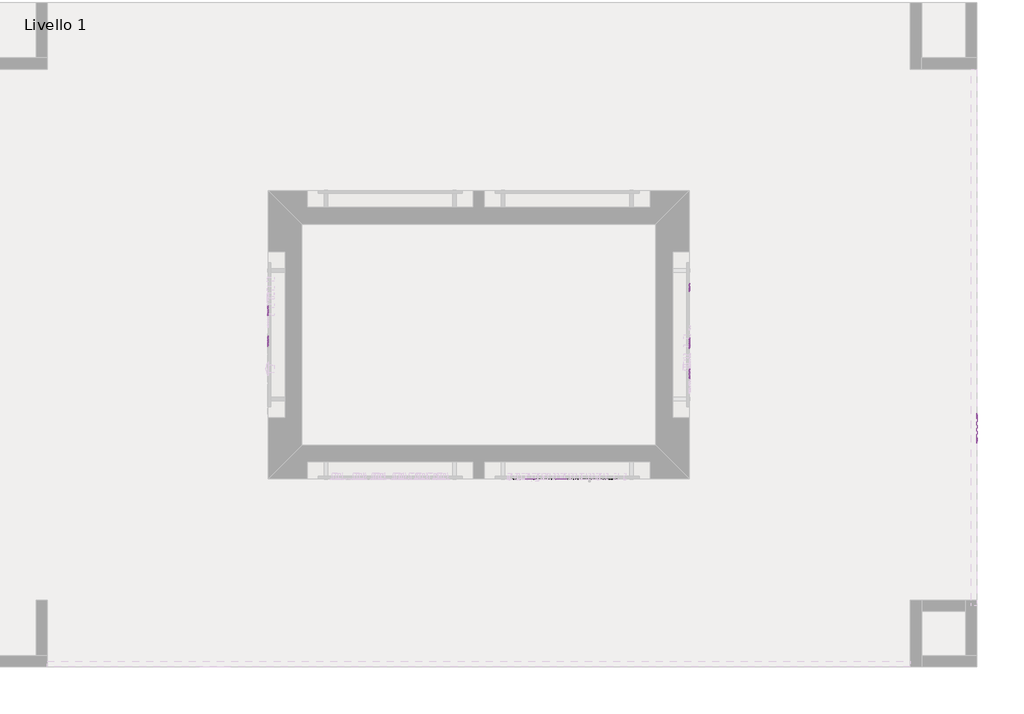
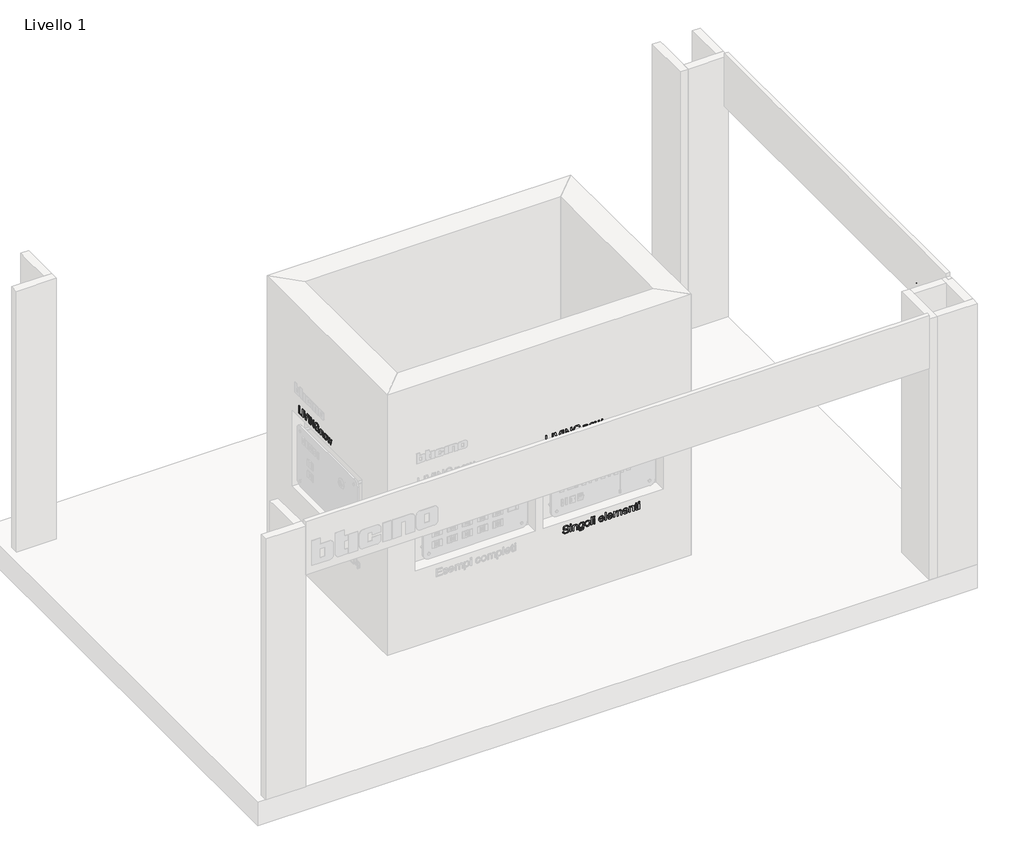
# One storey, part 4 of 4: 9 proxies.
"""IFC4 building model written with IfcOpenShell, lengths in millimetres."""

from ifc_helpers import new_model, si_unit, frame, origin, place, context, project, spatial, polyline, outline, extrude, transform, mapped, element, save
from components import entourage_2e1bad55

model = new_model("IFC4")

# Units and contexts
model_context = context("Model", 3, world=origin())
ifc_project = project(units=[si_unit("LENGTHUNIT", "METRE", prefix="MILLI")], contexts=[model_context])

# Site, building, storey
site = spatial("IfcSite", under=ifc_project)
building = spatial("IfcBuilding", under=site)
storey = spatial("IfcBuildingStorey", under=building, Name="Livello 1", Elevation=0.0)

# Proxies
placement = place(None, origin())
element("IfcBuildingElementProxy", 1, Name="100mm Helvetica", ObjectType="100mm Helvetica", at=placement, inside=storey, context=model_context, shape_type="SweptSolid", body=[
    extrude(outline(polyline([(871.4398046, 12367.3945448), (856.9970704, 12369.9120283), (845.8027019, 12377.4644789), (838.6438033, 12389.8769845), (836.2575038, 12407.0246081), (838.2502513, 12423.7474453), (844.2284938, 12436.5347624), (853.9423571, 12444.6494301), (867.1919416, 12447.3543194), (877.4367877, 12445.9050485), (885.2828406, 12441.5572357), (890.9549871, 12434.3858434), (894.5781644, 12424.3159093), (901.0748961, 12397.6043471), (906.2223066, 12386.3600038), (914.6180829, 12383.3864997), (922.2205084, 12384.9419672), (927.7364835, 12389.6083696), (932.2092334, 12406.1000732), (930.909887, 12416.4027027), (927.011848, 12424.0472945), (920.5151163, 12429.0338484), (911.419692, 12431.3623645), (911.419692, 12444.1559284), (926.0185977, 12440.8575877), (935.8823855, 12432.7616605), (941.5232977, 12420.9800875), (943.4036018, 12406.4748846), (941.2546829, 12391.1763308), (934.807926, 12379.8632721), (924.8192011, 12372.9105198), (912.0443777, 12370.5929357), (902.7802882, 12372.0234661), (895.7775611, 12376.3150571), (887.456747, 12392.0571377), (882.7091354, 12413.0215912), (875.3128562, 12430.9125907), (865.467809, 12434.5607554), (857.3968692, 12432.9240788), (851.7746976, 12428.0140489), (847.4518723, 12408.8486904), (848.951118, 12396.7219785), (853.4488554, 12387.9029776), (860.9450842, 12382.3916876), (871.4398046, 12380.1881087), (871.4398046, 12367.3945448)])), frame((0.0, 5064.1271843, 0.0), z_axis=(0.0, 1.0, 0.0), x_axis=(0.0, 0.0, 1.0)), (0.0, 0.0, 1.0), 5.0),
    extrude(outline(polyline([(12476.1398383, 5064.1271843), (12463.3462743, 5064.1271843), (12463.3462743, 5069.1271843), (12476.1398383, 5069.1271843), (12476.1398383, 5064.1271843)])), frame((0.0, 0.0, 839.4558948), z_axis=(0.0, 0.0, 1.0), x_axis=(1.0, 0.0, 0.0)), (0.0, 0.0, 1.0), 73.5629927),
    extrude(outline(polyline([(12476.1398383, 5064.1271843), (12463.3462743, 5064.1271843), (12463.3462743, 5069.1271843), (12476.1398383, 5069.1271843), (12476.1398383, 5064.1271843)])), frame((0.0, 0.0, 925.8124514), z_axis=(0.0, 0.0, 1.0), x_axis=(1.0, 0.0, 0.0)), (0.0, 0.0, 1.0), 14.3927594),
    extrude(outline(polyline([(839.4558948, 12493.7309887), (839.4558948, 12506.5245526), (879.1859078, 12506.5245526), (889.4307539, 12507.8301458), (897.0769074, 12511.7469254), (901.8370127, 12517.7439085), (903.4237145, 12525.2901122), (899.3757509, 12536.3345561), (884.433268, 12540.107658), (839.4558948, 12540.107658), (839.4558948, 12552.9012219), (889.0559425, 12552.9012219), (899.6006378, 12551.3395075), (907.696565, 12546.6543645), (912.8877035, 12539.1331482), (914.6180829, 12529.0132392), (911.419692, 12516.6194742), (901.824519, 12506.5245526), (913.0188875, 12506.5245526), (913.0188875, 12493.7309887), (839.4558948, 12493.7309887)])), frame((0.0, 5064.1271843, 0.0), z_axis=(0.0, 1.0, 0.0), x_axis=(0.0, 0.0, 1.0)), (0.0, 0.0, 1.0), 5.0),
    extrude(outline(polyline([(831.4599173, 12567.2939813), (821.0901341, 12570.461138), (814.1686161, 12576.5143428), (809.0711804, 12595.8046385), (811.0951622, 12610.3598162), (817.1671076, 12620.9919675), (828.4614258, 12627.494946), (846.0026013, 12629.6626055), (913.0188875, 12629.6626055), (913.0188875, 12616.8690416), (901.824519, 12616.8690416), (911.4696668, 12607.4237932), (914.6180829, 12595.1049904), (912.0256371, 12582.7799408), (904.2482997, 12573.4908639), (892.5167015, 12567.6438053), (878.0614735, 12565.6947858), (861.5447825, 12567.8374579), (848.776206, 12574.2654742), (840.586576, 12584.2541992), (837.8566993, 12597.0789974), (840.6552914, 12608.6481773), (849.0510678, 12616.8690416), (844.0535818, 12616.8690416), (833.0028911, 12615.5884358), (825.6878211, 12611.7466185), (821.6211169, 12605.3623303), (820.2655489, 12596.4543116), (823.064141, 12585.3536461), (831.4599173, 12580.0875453), (831.4599173, 12567.2939813)]), holes=[polyline([(877.4867626, 12578.4883498), (896.9394765, 12583.167246), (901.802655, 12589.0158662), (903.4237145, 12597.2039345), (901.6464836, 12605.8074189), (896.3147908, 12611.9527648), (887.4286361, 12615.6399724), (874.9880196, 12616.8690416), (855.872636, 12611.771606), (850.7564598, 12605.7059074), (849.0510678, 12597.5537585), (850.9376187, 12589.5702748), (856.5972715, 12583.5108231), (877.4867626, 12578.4883498)])]), frame((0.0, 5064.1271843, 0.0), z_axis=(0.0, 1.0, 0.0), x_axis=(0.0, 0.0, 1.0)), (0.0, 0.0, 1.0), 5.0),
    extrude(outline(polyline([(875.9625294, 12642.4561695), (860.5390385, 12644.8924439), (848.3514197, 12652.201267), (840.4803794, 12663.3019326), (837.8566993, 12677.1137343), (840.586576, 12691.0254857), (848.776206, 12701.876277), (861.1262431, 12708.885251), (876.2373911, 12711.2215757), (891.9794718, 12708.8040419), (904.1733374, 12701.5514404), (912.0068966, 12690.5257371), (914.6180829, 12676.8388726), (911.9256874, 12662.8084309), (903.8485008, 12651.851443), (891.5172043, 12644.8049879), (875.9625294, 12642.4561695)]), holes=[polyline([(876.2373911, 12655.2497334), (887.8627927, 12656.7427323), (896.4022468, 12661.2217291), (901.6683476, 12668.1370002), (903.4237145, 12676.8388726), (901.474695, 12686.1779244), (895.6276365, 12692.9557646), (876.2373911, 12698.4280117), (864.3995964, 12696.8538037), (855.872636, 12692.1311795), (850.7564598, 12685.184674), (849.0510678, 12676.8388726), (851.0000873, 12667.6185111), (856.8471458, 12660.7969428), (865.6052398, 12656.6365358), (876.2373911, 12655.2497334)])]), frame((0.0, 5064.1271843, 0.0), z_axis=(0.0, 1.0, 0.0), x_axis=(0.0, 0.0, 1.0)), (0.0, 0.0, 1.0), 5.0),
    extrude(outline(polyline([(12736.8087035, 5064.1271843), (12724.0151396, 5064.1271843), (12724.0151396, 5069.1271843), (12736.8087035, 5069.1271843), (12736.8087035, 5064.1271843)])), frame((0.0, 0.0, 839.4558948), z_axis=(0.0, 0.0, 1.0), x_axis=(1.0, 0.0, 0.0)), (0.0, 0.0, 1.0), 100.749316),
    extrude(outline(polyline([(12767.1934179, 5064.1271843), (12754.399854, 5064.1271843), (12754.399854, 5069.1271843), (12767.1934179, 5069.1271843), (12767.1934179, 5064.1271843)])), frame((0.0, 0.0, 839.4558948), z_axis=(0.0, 0.0, 1.0), x_axis=(1.0, 0.0, 0.0)), (0.0, 0.0, 1.0), 73.5629927),
    extrude(outline(polyline([(12767.1934179, 5064.1271843), (12754.399854, 5064.1271843), (12754.399854, 5069.1271843), (12767.1934179, 5069.1271843), (12767.1934179, 5064.1271843)])), frame((0.0, 0.0, 925.8124514), z_axis=(0.0, 0.0, 1.0), x_axis=(1.0, 0.0, 0.0)), (0.0, 0.0, 1.0), 14.3927594),
    extrude(outline(polyline([(873.0390001, 12831.1612376), (873.0390001, 12883.9346889), (891.3922672, 12881.6420922), (904.323262, 12875.5639), (912.0443777, 12865.8188024), (914.6180829, 12852.4255402), (911.8382314, 12838.0702619), (903.4986768, 12827.288186), (890.8550374, 12820.5978018), (875.0130071, 12818.3676737), (859.0960144, 12820.629036), (847.4268848, 12827.4131232), (840.2492457, 12838.0140402), (837.8566993, 12851.6259424), (839.5745851, 12863.12016), (844.7282424, 12872.1656095), (852.892885, 12878.6186132), (863.4438272, 12882.3354934), (863.4438272, 12869.5419294), (853.3239182, 12863.2700846), (849.0510678, 12850.9762693), (850.619029, 12842.2931375), (855.3229126, 12836.0837612), (873.0390001, 12831.1612376)]), holes=[polyline([(882.6341731, 12831.1612376), (897.6766057, 12837.3081453), (901.9869373, 12843.7299147), (903.4237145, 12851.7508796), (898.7510652, 12864.9942172), (882.6341731, 12871.1411249), (882.6341731, 12831.1612376)])]), frame((0.0, 5064.1271843, 0.0), z_axis=(0.0, 1.0, 0.0), x_axis=(0.0, 0.0, 1.0)), (0.0, 0.0, 1.0), 5.0),
    extrude(outline(polyline([(12912.7202077, 5064.1271843), (12899.9266438, 5064.1271843), (12899.9266438, 5069.1271843), (12912.7202077, 5069.1271843), (12912.7202077, 5064.1271843)])), frame((0.0, 0.0, 839.4558948), z_axis=(0.0, 0.0, 1.0), x_axis=(1.0, 0.0, 0.0)), (0.0, 0.0, 1.0), 100.749316),
    extrude(outline(polyline([(873.0390001, 12938.3073356), (873.0390001, 12991.0807869), (891.3922672, 12988.7881902), (904.323262, 12982.709998), (912.0443777, 12972.9649004), (914.6180829, 12959.5716382), (911.8382314, 12945.2163599), (903.4986768, 12934.434284), (890.8550374, 12927.7438998), (875.0130071, 12925.5137717), (859.0960144, 12927.775134), (847.4268848, 12934.5592212), (840.2492457, 12945.1601382), (837.8566993, 12958.7720404), (839.5745851, 12970.266258), (844.7282424, 12979.3117075), (852.892885, 12985.7647112), (863.4438272, 12989.4815914), (863.4438272, 12976.6880274), (853.3239182, 12970.4161826), (849.0510678, 12958.1223673), (850.619029, 12949.4392355), (855.3229126, 12943.2298592), (873.0390001, 12938.3073356)]), holes=[polyline([(882.6341731, 12938.3073356), (897.6766057, 12944.4542433), (901.9869373, 12950.8760127), (903.4237145, 12958.8969776), (898.7510652, 12972.1403152), (882.6341731, 12978.2872229), (882.6341731, 12938.3073356)])]), frame((0.0, 5064.1271843, 0.0), z_axis=(0.0, 1.0, 0.0), x_axis=(0.0, 0.0, 1.0)), (0.0, 0.0, 1.0), 5.0),
    extrude(outline(polyline([(913.0188875, 13007.0727418), (839.4558948, 13007.0727418), (839.4558948, 13019.8663057), (879.1859078, 13019.8663057), (889.5994191, 13021.2031332), (897.2018445, 13025.2136157), (901.868247, 13031.2793142), (903.4237145, 13038.8317648), (900.0441647, 13047.3962063), (889.9055151, 13050.2510201), (839.4558948, 13050.2510201), (839.4558948, 13063.044584), (883.908532, 13063.044584), (898.1513669, 13068.3169317), (903.4237145, 13080.4858099), (899.23832, 13090.1934263), (886.6821367, 13093.4292984), (839.4558948, 13093.4292984), (839.4558948, 13106.2228623), (889.95549, 13106.2228623), (900.468951, 13104.5986794), (908.221301, 13099.7261306), (913.0188875, 13092.2923703), (914.6180829, 13082.9845528), (911.8194908, 13071.2029798), (903.4237145, 13061.1455394), (911.8194908, 13053.2245242), (914.6180829, 13042.1051181), (911.419692, 13030.0861644), (901.824519, 13019.8663057), (913.0188875, 13019.8663057), (913.0188875, 13007.0727418)])), frame((0.0, 5064.1271843, 0.0), z_axis=(0.0, 1.0, 0.0), x_axis=(0.0, 0.0, 1.0)), (0.0, 0.0, 1.0), 5.0),
    extrude(outline(polyline([(873.0390001, 13130.2107947), (873.0390001, 13182.984246), (891.3922672, 13180.6916493), (904.323262, 13174.6134571), (912.0443777, 13164.8683595), (914.6180829, 13151.4750973), (911.8382314, 13137.119819), (903.4986768, 13126.3377431), (890.8550374, 13119.6473589), (875.0130071, 13117.4172308), (859.0960144, 13119.6785932), (847.4268848, 13126.4626803), (840.2492457, 13137.0635973), (837.8566993, 13150.6754995), (839.5745851, 13162.1697171), (844.7282424, 13171.2151666), (852.892885, 13177.6681703), (863.4438272, 13181.3850505), (863.4438272, 13168.5914865), (853.3239182, 13162.3196417), (849.0510678, 13150.0258264), (850.619029, 13141.3426946), (855.3229126, 13135.1333183), (873.0390001, 13130.2107947)]), holes=[polyline([(882.6341731, 13130.2107947), (897.6766057, 13136.3577024), (901.9869373, 13142.7794718), (903.4237145, 13150.8004367), (898.7510652, 13164.0437744), (882.6341731, 13170.190682), (882.6341731, 13130.2107947)])]), frame((0.0, 5064.1271843, 0.0), z_axis=(0.0, 1.0, 0.0), x_axis=(0.0, 0.0, 1.0)), (0.0, 0.0, 1.0), 5.0),
    extrude(outline(polyline([(839.4558948, 13198.9762009), (839.4558948, 13211.7697648), (879.1859078, 13211.7697648), (889.4307539, 13213.075358), (897.0769074, 13216.9921376), (901.8370127, 13222.9891207), (903.4237145, 13230.5353245), (899.3757509, 13241.5797683), (884.433268, 13245.3528702), (839.4558948, 13245.3528702), (839.4558948, 13258.1464341), (889.0559425, 13258.1464341), (899.6006378, 13256.5847198), (907.696565, 13251.8995767), (912.8877035, 13244.3783604), (914.6180829, 13234.2584515), (911.419692, 13221.8646864), (901.824519, 13211.7697648), (913.0188875, 13211.7697648), (913.0188875, 13198.9762009), (839.4558948, 13198.9762009)])), frame((0.0, 5064.1271843, 0.0), z_axis=(0.0, 1.0, 0.0), x_axis=(0.0, 0.0, 1.0)), (0.0, 0.0, 1.0), 5.0),
    extrude(outline(polyline([(903.4237145, 13267.7416071), (903.4237145, 13277.33678), (853.9985788, 13277.33678), (841.8921692, 13280.7600579), (837.8566993, 13291.0298914), (838.8062216, 13301.3247124), (849.0510678, 13301.3247124), (849.0510678, 13297.226774), (850.5440667, 13291.9044515), (855.0230634, 13290.130344), (903.4237145, 13290.130344), (903.4237145, 13301.3247124), (913.0188875, 13301.3247124), (913.0188875, 13290.130344), (933.8084289, 13290.130344), (933.8084289, 13277.33678), (913.0188875, 13277.33678), (913.0188875, 13267.7416071), (903.4237145, 13267.7416071)])), frame((0.0, 5064.1271843, 0.0), z_axis=(0.0, 1.0, 0.0), x_axis=(0.0, 0.0, 1.0)), (0.0, 0.0, 1.0), 5.0),
    extrude(outline(polyline([(13326.9118403, 5064.1271843), (13314.1182764, 5064.1271843), (13314.1182764, 5069.1271843), (13326.9118403, 5069.1271843), (13326.9118403, 5064.1271843)])), frame((0.0, 0.0, 839.4558948), z_axis=(0.0, 0.0, 1.0), x_axis=(1.0, 0.0, 0.0)), (0.0, 0.0, 1.0), 73.5629927),
    extrude(outline(polyline([(13326.9118403, 5064.1271843), (13314.1182764, 5064.1271843), (13314.1182764, 5069.1271843), (13326.9118403, 5069.1271843), (13326.9118403, 5064.1271843)])), frame((0.0, 0.0, 925.8124514), z_axis=(0.0, 0.0, 1.0), x_axis=(1.0, 0.0, 0.0)), (0.0, 0.0, 1.0), 14.3927594),
])
element("IfcBuildingElementProxy", 2, Name="100mm Helvetica", ObjectType="100mm Helvetica", at=placement, inside=storey, context=model_context, shape_type="SweptSolid", body=[
    extrude(outline(polyline([(2217.0134512, 12156.5528227), (2116.2641352, 12156.5528227), (2116.2641352, 12220.5206424), (2127.4585036, 12220.5206424), (2127.4585036, 12169.3463866), (2217.0134512, 12169.3463866), (2217.0134512, 12156.5528227)])), frame((0.0, 5064.1271843, 0.0), z_axis=(0.0, 1.0, 0.0), x_axis=(0.0, 0.0, 1.0)), (0.0, 0.0, 1.0), 5.0),
    extrude(outline(polyline([(12247.7069658, 5064.1271843), (12234.9134018, 5064.1271843), (12234.9134018, 5069.1271843), (12247.7069658, 5069.1271843), (12247.7069658, 5064.1271843)])), frame((0.0, 0.0, 2116.2641352), z_axis=(0.0, 0.0, 1.0), x_axis=(1.0, 0.0, 0.0)), (0.0, 0.0, 1.0), 100.749316),
    extrude(outline(polyline([(2130.8318066, 12307.6018345), (2217.0134512, 12278.6414036), (2217.0134512, 12263.6989207), (2116.2641352, 12300.480417), (2116.2641352, 12314.8731765), (2217.0134512, 12351.6546728), (2217.0134512, 12336.4373282), (2130.8318066, 12307.6018345)])), frame((0.0, 5064.1271843, 0.0), z_axis=(0.0, 1.0, 0.0), x_axis=(0.0, 0.0, 1.0)), (0.0, 0.0, 1.0), 5.0),
    extrude(outline(polyline([(12378.8409962, 5064.1271843), (12366.0474322, 5064.1271843), (12366.0474322, 5069.1271843), (12378.8409962, 5069.1271843), (12378.8409962, 5064.1271843)])), frame((0.0, 0.0, 2116.2641352), z_axis=(0.0, 0.0, 1.0), x_axis=(1.0, 0.0, 0.0)), (0.0, 0.0, 1.0), 100.749316),
    extrude(outline(polyline([(2217.0134512, 12402.8289286), (2116.2641352, 12402.8289286), (2116.2641352, 12415.8973542), (2198.1229545, 12415.8973542), (2116.2641352, 12465.1975528), (2116.2641352, 12481.1895077), (2217.0134512, 12481.1895077), (2217.0134512, 12468.3959438), (2135.1546319, 12467.2964969), (2217.0134512, 12418.8208835), (2217.0134512, 12402.8289286)])), frame((0.0, 5064.1271843, 0.0), z_axis=(0.0, 1.0, 0.0), x_axis=(0.0, 0.0, 1.0)), (0.0, 0.0, 1.0), 5.0),
    extrude(outline(polyline([(2159.4424135, 12543.5581319), (2159.4424135, 12575.5420418), (2143.8377637, 12573.3556417), (2132.8557884, 12566.7964414), (2126.4090316, 12556.8889256), (2124.2601127, 12544.5576291), (2127.0524579, 12529.9462296), (2135.4294937, 12519.6451618), (2148.6478439, 12513.591957), (2166.0141075, 12511.5742221), (2184.3986088, 12513.898053), (2197.923055, 12520.8695459), (2206.2438691, 12531.5454251), (2209.0174738, 12544.9324405), (2204.0699627, 12563.3481761), (2197.6232059, 12569.6949832), (2188.2279324, 12573.9428463), (2188.2279324, 12586.7364102), (2201.8023535, 12581.8701083), (2211.8910282, 12572.3186633), (2218.1316387, 12559.2939657), (2220.2118422, 12544.0578805), (2216.3013095, 12524.4677357), (2204.5697113, 12509.6252025), (2186.9535735, 12500.2923976), (2165.3894217, 12497.1814626), (2144.6685958, 12500.3111382), (2127.8832899, 12509.7001648), (2116.7701306, 12524.1116648), (2113.0657442, 12542.1588358), (2117.7883684, 12562.3486789), (2129.0576991, 12575.5420418), (2116.2641352, 12578.7404327), (2116.2641352, 12588.3356057), (2170.6367819, 12588.3356057), (2170.6367819, 12543.5581319), (2159.4424135, 12543.5581319)])), frame((0.0, 5064.1271843, 0.0), z_axis=(0.0, 1.0, 0.0), x_axis=(0.0, 0.0, 1.0)), (0.0, 0.0, 1.0), 5.0),
])
element("IfcBuildingElementProxy", 3, Name="100mm Helvetica", ObjectType="100mm Helvetica", at=placement, inside=storey, context=model_context, shape_type="SweptSolid", body=[
    extrude(outline(polyline([(2115.7141484, 12624.1349483), (2115.7141484, 12636.9285122), (2155.4441614, 12636.9285122), (2165.6890075, 12638.2341054), (2173.335161, 12642.150885), (2178.0952663, 12648.1478681), (2179.6819681, 12655.6940718), (2175.6340045, 12666.7385157), (2160.6915216, 12670.5116176), (2115.7141484, 12670.5116176), (2115.7141484, 12683.3051815), (2165.3141961, 12683.3051815), (2175.8588914, 12681.7434672), (2183.9548185, 12677.0583241), (2189.145957, 12669.5371078), (2190.8763365, 12659.4171988), (2187.6779455, 12647.0234338), (2178.0827726, 12636.9285122), (2189.277141, 12636.9285122), (2189.277141, 12624.1349483), (2115.7141484, 12624.1349483)])), frame((0.0, 5064.1271843, 0.0), z_axis=(0.0, 1.0, 0.0), x_axis=(0.0, 0.0, 1.0)), (0.0, 0.0, 1.0), 5.0),
    extrude(outline(polyline([(2152.220783, 12696.0987455), (2136.7972921, 12698.5350198), (2124.6096733, 12705.843843), (2116.738633, 12716.9445086), (2114.1149529, 12730.7563103), (2116.8448296, 12744.6680617), (2125.0344596, 12755.518853), (2137.3844967, 12762.527827), (2152.4956447, 12764.8641516), (2168.2377253, 12762.4466178), (2180.431591, 12755.1940164), (2188.2651501, 12744.1683131), (2190.8763365, 12730.4814485), (2188.183941, 12716.4510068), (2180.1067544, 12705.494019), (2167.7754579, 12698.4475638), (2152.220783, 12696.0987455)]), holes=[polyline([(2152.4956447, 12708.8923094), (2164.1210463, 12710.3853083), (2172.6605004, 12714.8643051), (2177.9266012, 12721.7795762), (2179.6819681, 12730.4814485), (2177.7329486, 12739.8205003), (2171.8858901, 12746.5983406), (2152.4956447, 12752.0705877), (2140.6578499, 12750.4963796), (2132.1308896, 12745.7737554), (2127.0147134, 12738.82725), (2125.3093213, 12730.4814485), (2127.2583408, 12721.261087), (2133.1053994, 12714.4395188), (2141.8634934, 12710.2791117), (2152.4956447, 12708.8923094)])]), frame((0.0, 5064.1271843, 0.0), z_axis=(0.0, 1.0, 0.0), x_axis=(0.0, 0.0, 1.0)), (0.0, 0.0, 1.0), 5.0),
    extrude(outline(polyline([(2189.277141, 12769.6617381), (2115.7141484, 12790.4512795), (2115.7141484, 12803.2448435), (2172.8853872, 12818.3622383), (2115.7141484, 12833.6295578), (2115.7141484, 12846.4231218), (2189.277141, 12867.2126632), (2189.277141, 12854.9938101), (2130.9564804, 12840.3511764), (2189.277141, 12825.6335804), (2189.277141, 12811.2408209), (2130.9564804, 12796.7730992), (2189.277141, 12783.0550004), (2189.277141, 12769.6617381)])), frame((0.0, 5064.1271843, 0.0), z_axis=(0.0, 1.0, 0.0), x_axis=(0.0, 0.0, 1.0)), (0.0, 0.0, 1.0), 5.0),
])
element("IfcBuildingElementProxy", 4, Name="100mm Helvetica", ObjectType="100mm Helvetica", at=placement, inside=storey, context=model_context, shape_type="SweptSolid", body=[
    extrude(outline(polyline([(6972.3283182, 2157.2849335), (6972.3283182, 2056.5356175), (6908.3604985, 2056.5356175), (6908.3604985, 2067.7299859), (6959.5347543, 2067.7299859), (6959.5347543, 2157.2849335), (6972.3283182, 2157.2849335)])), frame((10168.8446289, 0.0, 0.0), z_axis=(1.0, 0.0, 0.0), x_axis=(0.0, 1.0, 0.0)), (0.0, 0.0, 1.0), 5.0),
    extrude(outline(polyline([(10168.8446289, 6881.1741751), (10168.8446289, 6893.9677391), (10173.8446289, 6893.9677391), (10173.8446289, 6881.1741751), (10168.8446289, 6881.1741751)])), frame((0.0, 0.0, 2056.5356175), z_axis=(0.0, 0.0, 1.0), x_axis=(1.0, 0.0, 0.0)), (0.0, 0.0, 1.0), 100.749316),
    extrude(outline(polyline([(6821.2793064, 2071.1032889), (6850.2397373, 2157.2849335), (6865.1822202, 2157.2849335), (6828.4007239, 2056.5356175), (6814.0079644, 2056.5356175), (6777.2264681, 2157.2849335), (6792.4438127, 2157.2849335), (6821.2793064, 2071.1032889)])), frame((10168.8446289, 0.0, 0.0), z_axis=(1.0, 0.0, 0.0), x_axis=(0.0, 1.0, 0.0)), (0.0, 0.0, 1.0), 5.0),
    extrude(outline(polyline([(10168.8446289, 6750.0401447), (10168.8446289, 6762.8337087), (10173.8446289, 6762.8337087), (10173.8446289, 6750.0401447), (10168.8446289, 6750.0401447)])), frame((0.0, 0.0, 2056.5356175), z_axis=(0.0, 0.0, 1.0), x_axis=(1.0, 0.0, 0.0)), (0.0, 0.0, 1.0), 100.749316),
    extrude(outline(polyline([(6726.0522123, 2157.2849335), (6726.0522123, 2056.5356175), (6712.9837867, 2056.5356175), (6712.9837867, 2138.3944367), (6663.6835881, 2056.5356175), (6647.6916332, 2056.5356175), (6647.6916332, 2157.2849335), (6660.4851971, 2157.2849335), (6661.5846441, 2075.4261142), (6710.0602574, 2157.2849335), (6726.0522123, 2157.2849335)])), frame((10168.8446289, 0.0, 0.0), z_axis=(1.0, 0.0, 0.0), x_axis=(0.0, 1.0, 0.0)), (0.0, 0.0, 1.0), 5.0),
    extrude(outline(polyline([(6585.323009, 2099.7138958), (6553.3390991, 2099.7138958), (6555.5254992, 2084.109246), (6562.0846995, 2073.1272707), (6571.9922153, 2066.6805139), (6584.3235118, 2064.5315949), (6598.9349113, 2067.3239402), (6609.2359791, 2075.700976), (6615.2891839, 2088.9193262), (6617.3069188, 2106.2855897), (6614.9830879, 2124.6700911), (6608.011595, 2138.1945373), (6597.3357158, 2146.5153514), (6583.9487004, 2149.288956), (6565.5329648, 2144.341445), (6559.1861577, 2137.8946882), (6554.9382946, 2128.4994146), (6542.1447307, 2128.4994146), (6547.0110326, 2142.0738358), (6556.5624776, 2152.1625104), (6569.5871752, 2158.403121), (6584.8232604, 2160.4833245), (6604.4134052, 2156.5727918), (6619.2559384, 2144.8411936), (6628.5887433, 2127.2250557), (6631.6996783, 2105.660904), (6628.5700027, 2084.940078), (6619.1809761, 2068.1547722), (6604.7694761, 2057.0416129), (6586.7223051, 2053.3372265), (6566.532462, 2058.0598507), (6553.3390991, 2069.3291814), (6550.1407082, 2056.5356175), (6540.5455352, 2056.5356175), (6540.5455352, 2110.9082642), (6585.323009, 2110.9082642), (6585.323009, 2099.7138958)])), frame((10168.8446289, 0.0, 0.0), z_axis=(1.0, 0.0, 0.0), x_axis=(0.0, 1.0, 0.0)), (0.0, 0.0, 1.0), 5.0),
])
element("IfcBuildingElementProxy", 5, Name="100mm Helvetica", ObjectType="100mm Helvetica", at=placement, inside=storey, context=model_context, shape_type="SweptSolid", body=[
    extrude(outline(polyline([(6504.7461926, 2055.9856307), (6491.9526287, 2055.9856307), (6491.9526287, 2095.7156437), (6490.6470355, 2105.9604898), (6486.7302559, 2113.6066432), (6480.7332728, 2118.3667486), (6473.1870691, 2119.9534504), (6462.1426252, 2115.9054868), (6458.3695233, 2100.9630039), (6458.3695233, 2055.9856307), (6445.5759594, 2055.9856307), (6445.5759594, 2105.5856784), (6447.1376737, 2116.1303736), (6451.8228168, 2124.2263008), (6459.3440331, 2129.4174393), (6469.4639421, 2131.1478188), (6481.8577071, 2127.9494278), (6491.9526287, 2118.3542549), (6491.9526287, 2129.5486233), (6504.7461926, 2129.5486233), (6504.7461926, 2055.9856307)])), frame((10168.8446289, 0.0, 0.0), z_axis=(1.0, 0.0, 0.0), x_axis=(0.0, 1.0, 0.0)), (0.0, 0.0, 1.0), 5.0),
    extrude(outline(polyline([(6432.7823954, 2092.4922653), (6430.3461211, 2077.0687744), (6423.0372979, 2064.8811556), (6411.9366323, 2057.0101153), (6398.1248306, 2054.3864352), (6384.2130792, 2057.1163118), (6373.3622879, 2065.3059419), (6366.3533139, 2077.655979), (6364.0169893, 2092.767127), (6366.4345231, 2108.5092076), (6373.6871245, 2120.7030732), (6384.7128278, 2128.5366324), (6398.3996924, 2131.1478188), (6412.4301341, 2128.4554233), (6423.3871219, 2120.3782367), (6430.4335771, 2108.0469402), (6432.7823954, 2092.4922653)]), holes=[polyline([(6419.9888315, 2092.767127), (6418.4958326, 2104.3925286), (6414.0168358, 2112.9319826), (6407.1015647, 2118.1980834), (6398.3996924, 2119.9534504), (6389.0606406, 2118.0044309), (6382.2828003, 2112.1573723), (6376.8105532, 2092.767127), (6378.3847613, 2080.9293322), (6383.1073855, 2072.4023719), (6390.0538909, 2067.2861957), (6398.3996924, 2065.5808036), (6407.6200539, 2067.5298231), (6414.4416221, 2073.3768816), (6418.6020292, 2082.1349757), (6419.9888315, 2092.767127)])]), frame((10168.8446289, 0.0, 0.0), z_axis=(1.0, 0.0, 0.0), x_axis=(0.0, 1.0, 0.0)), (0.0, 0.0, 1.0), 5.0),
    extrude(outline(polyline([(6359.2194028, 2129.5486233), (6338.4298614, 2055.9856307), (6325.6362974, 2055.9856307), (6310.5189026, 2113.1568695), (6295.2515831, 2055.9856307), (6282.4580191, 2055.9856307), (6261.6684777, 2129.5486233), (6273.8873308, 2129.5486233), (6288.5299645, 2071.2279627), (6303.2475605, 2129.5486233), (6317.64032, 2129.5486233), (6332.1080417, 2071.2279627), (6345.8261405, 2129.5486233), (6359.2194028, 2129.5486233)])), frame((10168.8446289, 0.0, 0.0), z_axis=(1.0, 0.0, 0.0), x_axis=(0.0, 1.0, 0.0)), (0.0, 0.0, 1.0), 5.0),
])
element("IfcBuildingElementProxy", 6, Name="100mm Helvetica", ObjectType="100mm Helvetica", at=placement, inside=storey, context=model_context, shape_type="SweptSolid", body=[
    extrude(outline(polyline([(5629.6316589, 2211.2973557), (5642.4252228, 2211.2973557), (5642.4252228, 2121.7424081), (5693.5994786, 2121.7424081), (5693.5994786, 2110.5480396), (5629.6316589, 2110.5480396), (5629.6316589, 2211.2973557)])), frame((13973.8446289, 0.0, 0.0), z_axis=(1.0, 0.0, 0.0), x_axis=(0.0, 1.0, 0.0)), (0.0, 0.0, 1.0), 5.0),
    extrude(outline(polyline([(13978.8446289, 5720.785802), (13978.8446289, 5707.992238), (13973.8446289, 5707.992238), (13973.8446289, 5720.785802), (13978.8446289, 5720.785802)])), frame((0.0, 0.0, 2110.5480396), z_axis=(0.0, 0.0, 1.0), x_axis=(1.0, 0.0, 0.0)), (0.0, 0.0, 1.0), 100.749316),
    extrude(outline(polyline([(5780.6806707, 2125.1157111), (5809.5161644, 2211.2973557), (5824.733509, 2211.2973557), (5787.9520127, 2110.5480396), (5773.5592532, 2110.5480396), (5736.7777569, 2211.2973557), (5751.7202398, 2211.2973557), (5780.6806707, 2125.1157111)])), frame((13973.8446289, 0.0, 0.0), z_axis=(1.0, 0.0, 0.0), x_axis=(0.0, 1.0, 0.0)), (0.0, 0.0, 1.0), 5.0),
    extrude(outline(polyline([(13978.8446289, 5851.9198324), (13978.8446289, 5839.1262684), (13973.8446289, 5839.1262684), (13973.8446289, 5851.9198324), (13978.8446289, 5851.9198324)])), frame((0.0, 0.0, 2110.5480396), z_axis=(0.0, 0.0, 1.0), x_axis=(1.0, 0.0, 0.0)), (0.0, 0.0, 1.0), 100.749316),
    extrude(outline(polyline([(5875.9077648, 2211.2973557), (5891.8997197, 2211.2973557), (5940.375333, 2129.4385364), (5941.4747799, 2211.2973557), (5954.2683439, 2211.2973557), (5954.2683439, 2110.5480396), (5938.276389, 2110.5480396), (5888.9761904, 2192.4068589), (5888.9761904, 2110.5480396), (5875.9077648, 2110.5480396), (5875.9077648, 2211.2973557)])), frame((13973.8446289, 0.0, 0.0), z_axis=(1.0, 0.0, 0.0), x_axis=(0.0, 1.0, 0.0)), (0.0, 0.0, 1.0), 5.0),
    extrude(outline(polyline([(6016.6369681, 2153.7263179), (6016.6369681, 2164.9206864), (6061.4144419, 2164.9206864), (6061.4144419, 2110.5480396), (6051.8192689, 2110.5480396), (6048.620878, 2123.3416036), (6035.4275151, 2112.0722728), (6015.237672, 2107.3496487), (5997.190501, 2111.0540351), (5982.779001, 2122.1671944), (5973.3899744, 2138.9525002), (5970.2602988, 2159.6733262), (5973.3712338, 2181.2374779), (5982.7040387, 2198.8536158), (5997.5465719, 2210.5852139), (6017.1367167, 2214.4957467), (6032.3728019, 2212.4155432), (6045.3974995, 2206.1749326), (6054.9489445, 2196.0862579), (6059.8152464, 2182.5118368), (6047.0216825, 2182.5118368), (6042.7738194, 2191.9071103), (6036.4270123, 2198.3538672), (6018.0112767, 2203.3013782), (6004.6242613, 2200.5277735), (5993.948382, 2192.2069595), (5986.9768892, 2178.6825132), (5984.6530582, 2160.2980119), (5986.6707932, 2142.9317484), (5992.723998, 2129.7133981), (6003.0250658, 2121.3363624), (6017.6364653, 2118.5440171), (6029.9677618, 2120.6929361), (6039.8752776, 2127.1396929), (6046.4344779, 2138.1216682), (6048.620878, 2153.7263179), (6016.6369681, 2153.7263179)])), frame((13973.8446289, 0.0, 0.0), z_axis=(1.0, 0.0, 0.0), x_axis=(0.0, 1.0, 0.0)), (0.0, 0.0, 1.0), 5.0),
])
element("IfcBuildingElementProxy", 7, Name="100mm Helvetica", ObjectType="100mm Helvetica", at=placement, inside=storey, context=model_context, shape_type="SweptSolid", body=[
    extrude(outline(polyline([(6097.2137845, 2109.9980528), (6097.2137845, 2183.5610455), (6110.0073484, 2183.5610455), (6110.0073484, 2172.366677), (6120.10227, 2181.96185), (6132.496035, 2185.160241), (6142.615944, 2183.4298615), (6150.1371603, 2178.238723), (6154.8223034, 2170.1427958), (6156.3840177, 2159.5981005), (6156.3840177, 2109.9980528), (6143.5904538, 2109.9980528), (6143.5904538, 2154.9754261), (6139.8173519, 2169.9179089), (6128.772908, 2173.9658725), (6121.2267043, 2172.3791708), (6115.2297212, 2167.6190654), (6111.3129416, 2159.972912), (6110.0073484, 2149.7280658), (6110.0073484, 2109.9980528), (6097.2137845, 2109.9980528)])), frame((13973.8446289, 0.0, 0.0), z_axis=(1.0, 0.0, 0.0), x_axis=(0.0, 1.0, 0.0)), (0.0, 0.0, 1.0), 5.0),
    extrude(outline(polyline([(6169.1775816, 2146.5046874), (6171.5264, 2162.0593623), (6178.5728552, 2174.3906588), (6189.529843, 2182.4678454), (6203.5602847, 2185.160241), (6217.2471493, 2182.5490546), (6228.2728526, 2174.7154954), (6235.525454, 2162.5216298), (6237.9429878, 2146.7795492), (6235.6066632, 2131.6684011), (6228.5976892, 2119.3183641), (6217.7468979, 2111.128734), (6203.8351465, 2108.3988573), (6190.0233448, 2111.0225374), (6178.9226792, 2118.8935778), (6171.613856, 2131.0811965), (6169.1775816, 2146.5046874)]), holes=[polyline([(6181.9711456, 2146.7795492), (6183.3579479, 2136.1473979), (6187.518355, 2127.3893038), (6194.3399232, 2121.5422453), (6203.5602847, 2119.5932258), (6211.9060862, 2121.2986179), (6218.8525916, 2126.4147941), (6223.5752158, 2134.9417544), (6225.1494239, 2146.7795492), (6219.6771768, 2166.1697945), (6212.8993365, 2172.016853), (6203.5602847, 2173.9658725), (6194.8584124, 2172.2105056), (6187.9431413, 2166.9444048), (6183.4641445, 2158.4049508), (6181.9711456, 2146.7795492)])]), frame((13973.8446289, 0.0, 0.0), z_axis=(1.0, 0.0, 0.0), x_axis=(0.0, 1.0, 0.0)), (0.0, 0.0, 1.0), 5.0),
    extrude(outline(polyline([(6242.7405743, 2183.5610455), (6256.1338366, 2183.5610455), (6269.8519354, 2125.2403849), (6284.3196571, 2183.5610455), (6298.7124165, 2183.5610455), (6313.4300126, 2125.2403849), (6328.0726463, 2183.5610455), (6340.2914994, 2183.5610455), (6319.501958, 2109.9980528), (6306.708394, 2109.9980528), (6291.4410745, 2167.1692917), (6276.3236797, 2109.9980528), (6263.5301157, 2109.9980528), (6242.7405743, 2183.5610455)])), frame((13973.8446289, 0.0, 0.0), z_axis=(1.0, 0.0, 0.0), x_axis=(0.0, 1.0, 0.0)), (0.0, 0.0, 1.0), 5.0),
])
element("IfcBuildingElementProxy", 8, Name="70mm Helvetica Bold", ObjectType="70mm Helvetica Bold", at=placement, inside=storey, context=model_context, shape_type="SweptSolid", body=[
    extrude(outline(polyline([(6516.0823555, 2179.3664344), (6531.1121715, 2179.3664344), (6558.6066185, 2131.1517963), (6558.8595241, 2179.3664344), (6572.7332004, 2179.3664344), (6572.7332004, 2109.9980528), (6557.7033844, 2109.9980528), (6529.3057032, 2159.3327013), (6529.9560318, 2109.9980528), (6516.0823555, 2109.9980528), (6516.0823555, 2179.3664344)])), frame((13973.8446289, 0.0, 0.0), z_axis=(1.0, 0.0, 0.0), x_axis=(0.0, 1.0, 0.0)), (0.0, 0.0, 1.0), 5.0),
    extrude(outline(polyline([(6595.8559942, 2131.964707), (6599.4328014, 2122.227843), (6607.652232, 2119.2471704), (6613.3832526, 2120.692345), (6616.6665087, 2125.0278688), (6630.540185, 2125.0278688), (6621.6342964, 2112.6174318), (6607.200615, 2108.8419131), (6596.5334198, 2110.5896712), (6588.5578624, 2115.8329453), (6583.626204, 2124.4136696), (6581.9823179, 2136.2099074), (6583.6081394, 2147.260977), (6588.4856037, 2155.8100881), (6596.3301921, 2161.337881), (6606.857386, 2163.1804787), (6617.7244217, 2161.3344939), (6625.48659, 2155.7965396), (6630.143891, 2146.5666158), (6631.6963247, 2133.6447225), (6631.6963247, 2131.964707), (6595.8559942, 2131.964707)]), holes=[polyline([(6596.2895466, 2141.2138245), (6617.8226484, 2141.2138245), (6614.3226161, 2149.0177674), (6606.8935153, 2151.6190817), (6599.6676423, 2149.0177674), (6596.2895466, 2141.2138245)])]), frame((13973.8446289, 0.0, 0.0), z_axis=(1.0, 0.0, 0.0), x_axis=(0.0, 1.0, 0.0)), (0.0, 0.0, 1.0), 5.0),
    extrude(outline(polyline([(6635.1647438, 2152.7752214), (6635.1647438, 2162.024339), (6642.1015819, 2162.024339), (6642.1015819, 2175.8980153), (6655.9752582, 2175.8980153), (6655.9752582, 2162.024339), (6664.0682361, 2162.024339), (6664.0682361, 2152.7752214), (6655.9752582, 2152.7752214), (6655.9752582, 2123.5646295), (6657.0230098, 2119.9336283), (6661.4849864, 2119.2471704), (6664.0682361, 2119.3916878), (6664.0682361, 2108.9864306), (6657.2759154, 2108.8419131), (6645.172578, 2111.4251628), (6642.1015819, 2120.3310513), (6642.1015819, 2152.7752214), (6635.1647438, 2152.7752214)])), frame((13973.8446289, 0.0, 0.0), z_axis=(1.0, 0.0, 0.0), x_axis=(0.0, 1.0, 0.0)), (0.0, 0.0, 1.0), 5.0),
    extrude(outline(polyline([(6669.8489345, 2144.6822436), (6672.5767016, 2153.8997479), (6677.3277132, 2159.4410894), (6693.0981811, 2163.1804787), (6709.0673606, 2159.4772187), (6713.470627, 2154.8481438), (6714.9383825, 2148.3674389), (6714.9383825, 2120.6562156), (6718.4068016, 2112.3103322), (6718.4068016, 2109.9980528), (6702.3472987, 2109.9980528), (6701.0647062, 2116.4652092), (6693.7530259, 2110.8651576), (6684.7522977, 2108.8419131), (6673.2992889, 2112.6716259), (6668.6927948, 2124.0885053), (6672.4863782, 2135.3608673), (6683.8671283, 2140.5996253), (6696.2414359, 2142.4602876), (6701.0647062, 2146.8319408), (6698.8021047, 2151.2894013), (6692.0143002, 2152.7752214), (6685.0413327, 2150.751977), (6682.5664711, 2144.6822436), (6669.8489345, 2144.6822436)]), holes=[polyline([(6701.0647062, 2135.4331261), (6696.9820879, 2133.6447225), (6691.797524, 2132.5066475), (6685.0593973, 2130.1582387), (6682.5664711, 2124.5943164), (6684.3910041, 2119.6265287), (6689.2865331, 2118.0910307), (6697.5601578, 2121.1800914), (6701.0647062, 2128.5685466), (6701.0647062, 2135.4331261)])]), frame((13973.8446289, 0.0, 0.0), z_axis=(1.0, 0.0, 0.0), x_axis=(0.0, 1.0, 0.0)), (0.0, 0.0, 1.0), 5.0),
    extrude(outline(polyline([(6721.8752207, 2152.7752214), (6721.8752207, 2162.024339), (6728.8120588, 2162.024339), (6728.8120588, 2175.8980153), (6742.6857351, 2175.8980153), (6742.6857351, 2162.024339), (6750.778713, 2162.024339), (6750.778713, 2152.7752214), (6742.6857351, 2152.7752214), (6742.6857351, 2123.5646295), (6743.7334867, 2119.9336283), (6748.1954633, 2119.2471704), (6750.778713, 2119.3916878), (6750.778713, 2108.9864306), (6743.9863923, 2108.8419131), (6731.8830549, 2111.4251628), (6728.8120588, 2120.3310513), (6728.8120588, 2152.7752214), (6721.8752207, 2152.7752214)])), frame((13973.8446289, 0.0, 0.0), z_axis=(1.0, 0.0, 0.0), x_axis=(0.0, 1.0, 0.0)), (0.0, 0.0, 1.0), 5.0),
    extrude(outline(polyline([(6758.8716908, 2162.024339), (6771.5892274, 2162.024339), (6771.5892274, 2153.9313611), (6778.1331587, 2160.8681993), (6787.0345311, 2163.1804787), (6796.0307431, 2160.886264), (6801.3417598, 2155.0875008), (6807.2714919, 2161.1572342), (6815.4864064, 2163.1804787), (6828.0232962, 2158.5559199), (6832.8646311, 2145.9287067), (6832.8646311, 2109.9980528), (6818.9909548, 2109.9980528), (6818.9909548, 2141.3944713), (6817.0986793, 2149.0629291), (6811.4218528, 2151.6190817), (6804.9592125, 2148.9771219), (6802.8049991, 2141.0512424), (6802.8049991, 2109.9980528), (6788.9313228, 2109.9980528), (6788.9313228, 2141.0512424), (6787.0887252, 2149.2887377), (6781.0912505, 2151.6190817), (6774.831838, 2149.0990585), (6772.7453671, 2141.5389888), (6772.7453671, 2109.9980528), (6758.8716908, 2109.9980528), (6758.8716908, 2162.024339)])), frame((13973.8446289, 0.0, 0.0), z_axis=(1.0, 0.0, 0.0), x_axis=(0.0, 1.0, 0.0)), (0.0, 0.0, 1.0), 5.0),
    extrude(outline(polyline([(6843.2698883, 2136.0111959), (6845.0582919, 2147.2112992), (6850.4235027, 2155.8100881), (6858.7242244, 2161.337881), (6869.2830314, 2163.1804787), (6879.4895771, 2161.4101398), (6887.8535252, 2156.0991231), (6893.4355122, 2147.5364635), (6895.2961745, 2136.0111959), (6893.5664811, 2125.1001276), (6888.377401, 2116.3929505), (6880.1353895, 2110.7296725), (6869.2830314, 2108.8419131), (6859.0358402, 2110.612252), (6850.6583436, 2115.9232688), (6845.1170022, 2124.503993), (6843.2698883, 2136.0111959)]), holes=[polyline([(6857.1435647, 2136.0111959), (6860.1784313, 2124.3052815), (6869.2830314, 2120.4033101), (6878.3876315, 2124.3052815), (6881.4224982, 2136.0111959), (6878.3876315, 2147.7171103), (6869.2830314, 2151.6190817), (6860.1784313, 2147.7171103), (6857.1435647, 2136.0111959)])]), frame((13973.8446289, 0.0, 0.0), z_axis=(1.0, 0.0, 0.0), x_axis=(0.0, 1.0, 0.0)), (0.0, 0.0, 1.0), 5.0),
])
entourage_shape = entourage_2e1bad55(model_context)
element("IfcBuildingElementProxy", 9, Name="BTicino_Logo_Grande : BTicino_Logo_Grande", ObjectType="BTicino_Logo_Grande : BTicino_Logo_Grande", at=placement, inside=storey, context=model_context, shape_type="MappedRepresentation", body=[
    mapped(entourage_shape, transform((16573.8446289, 4869.1271843, 2900.0), x_axis=(0.0, 1.0, 0.0), y_axis=(0.0, 0.0, 1.0), z_axis=(1.0, 0.0, 0.0))),
])

save(model, "model.ifc")
